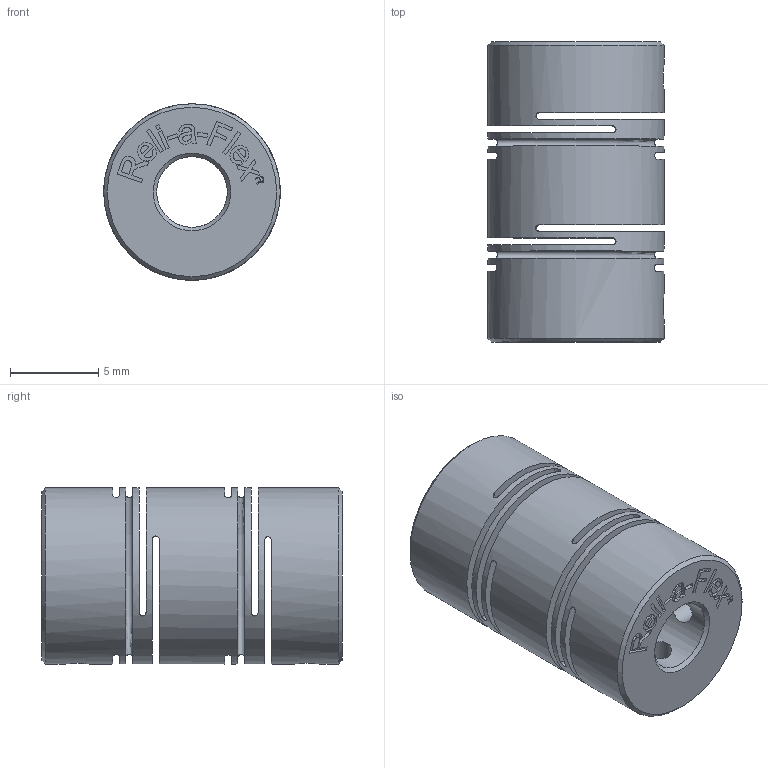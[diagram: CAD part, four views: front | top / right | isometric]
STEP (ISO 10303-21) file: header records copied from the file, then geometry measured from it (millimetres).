
FILE_DESCRIPTION( ( 'Unknown' ), '1' );
FILE_NAME( 'Z:/SolidWorks/STANDARD PARTS/FLEXIBLE SHAFT COUPLINGS, CLUTCHES AND COLLARS/Reliaflex/RCLA10-4-4.stp', 'Unknown', ( 'Unknown' ), ( 'Unknown' ), 'PSStep 13.0', 'Unknown', ' ' );
FILE_SCHEMA( ( 'AUTOMOTIVE_DESIGN { 1 0 10303 214 1 1 1 1 }' ) );
Length unit declared in the file: millimetre
Products named in the file (1): 1
Bounding box: 10 x 17 x 10 mm (x, y, z)
Volume: 915.3 mm3; surface area: 1653.2 mm2
Topology: 1 solids, 1 shells, 174 faces, 454 edges, 304 vertices
Faces by surface type: plane 120, cylinder 42, torus 8, cone 4
Full cylindrical faces by diameter (mm): 1.6 x4, 4 x2, 4.3 x9, 10 x1
Entity records: 6832 total; most frequent: CARTESIAN_POINT 1255, DIRECTION 846, ORIENTED_EDGE 816, EDGE_CURVE 408, AXIS2_PLACEMENT_3D 287, VERTEX_POINT 284, LINE 272, VECTOR 272
